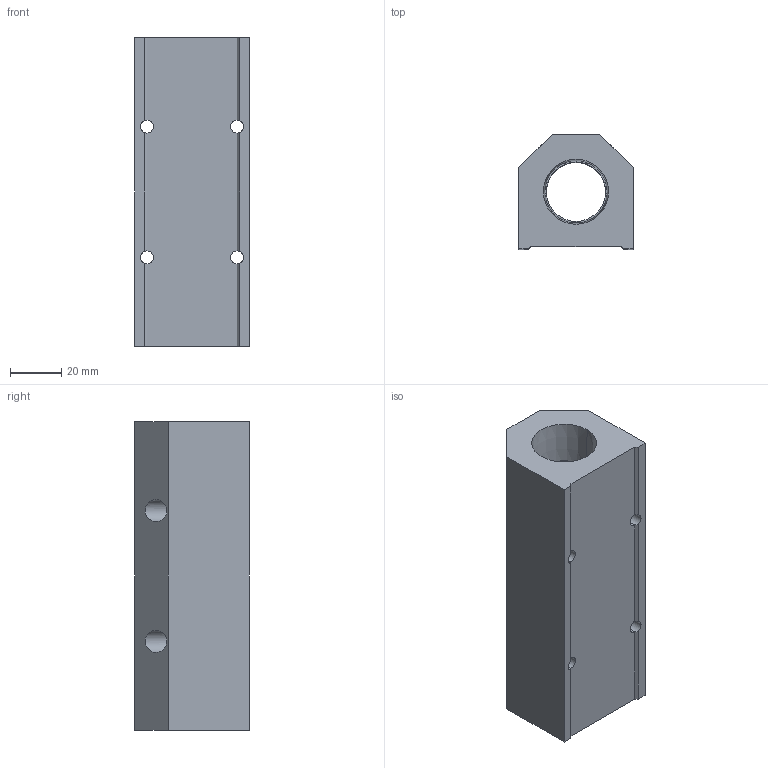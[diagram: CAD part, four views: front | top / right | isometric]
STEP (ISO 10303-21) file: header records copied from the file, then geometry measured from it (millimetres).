
FILE_DESCRIPTION (( 'STEP AP214' ), '1' );
FILE_NAME ('ALM4C-N4N12-120R.step', '2022-02-06T14:06:06', ( '' ), ( '' ), 'SwSTEP 2.0', 'SolidWorks 2020', '' );
FILE_SCHEMA (( 'AUTOMOTIVE_DESIGN' ));
Length unit declared in the file: millimetre
Products named in the file (1): ALM4C-N4N12-120R
Bounding box: 44.5 x 44.5 x 120 mm (x, y, z)
Volume: 151858.8 mm3; surface area: 34142.3 mm2
Topology: 1 solids, 1 shells, 282 faces, 746 edges, 492 vertices
Faces by surface type: plane 200, bspline 41, cylinder 23, cone 18
Entity records: 14531 total; most frequent: CARTESIAN_POINT 5302, ORIENTED_EDGE 1492, DIRECTION 1170, EDGE_CURVE 746, LINE 570, VECTOR 570, VERTEX_POINT 492, EDGE_LOOP 326
